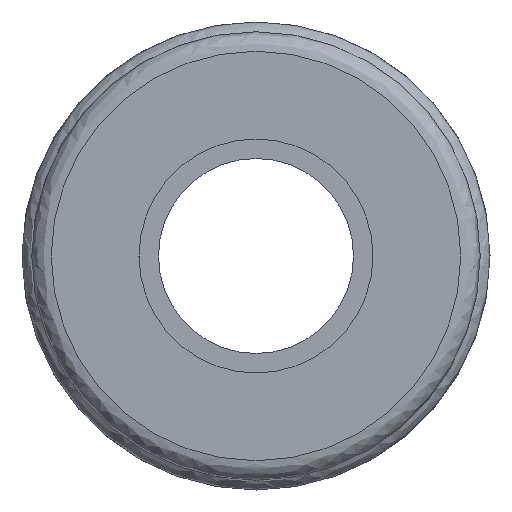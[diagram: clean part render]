
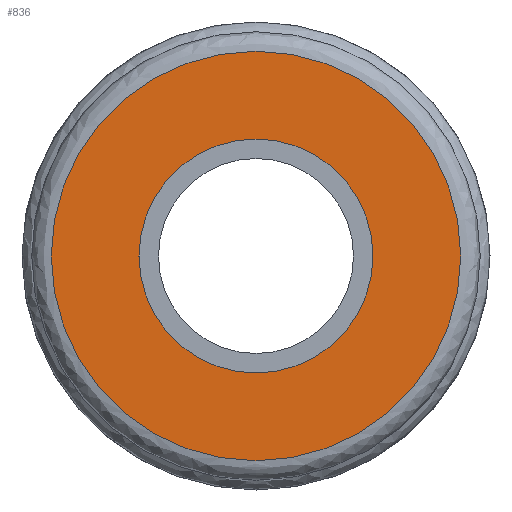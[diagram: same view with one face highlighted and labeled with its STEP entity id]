
A CAD part, left-side view. The second image highlights one B-rep face of the part: STEP entity #836.
In plain terms, the highlighted free-form (B-spline) face has degree [1, 1] with [2, 2] control points.
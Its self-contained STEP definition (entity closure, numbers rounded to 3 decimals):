
#49=CARTESIAN_POINT('',(-25.1,3.,0.0));
#50=VERTEX_POINT('',#49);
#51=CARTESIAN_POINT('',(-25.1,0.0,0.0));
#52=DIRECTION('',(-1.0,0.0,0.0));
#53=DIRECTION('',(0.0,1.0,0.0));
#54=AXIS2_PLACEMENT_3D('',#51,#52,#53);
#55=CIRCLE('',#54,3.);
#56=EDGE_CURVE('',#50,#50,#55,.T.);
#761=CARTESIAN_POINT('',(-25.1,0.,-5.25));
#762=VERTEX_POINT('',#761);
#763=CARTESIAN_POINT('',(-25.1,0.0,0.0));
#764=DIRECTION('',(-1.0,0.0,0.0));
#765=DIRECTION('',(0.0,0.0,1.0));
#766=AXIS2_PLACEMENT_3D('',#763,#764,#765);
#767=CIRCLE('',#766,5.25);
#768=EDGE_CURVE('',#762,#762,#767,.T.);
#825=CARTESIAN_POINT('',(-25.1,5.25,-5.25));
#826=CARTESIAN_POINT('',(-25.1,5.25,5.25));
#827=CARTESIAN_POINT('',(-25.1,-5.25,-5.25));
#828=CARTESIAN_POINT('',(-25.1,-5.25,5.25));
#829=B_SPLINE_SURFACE_WITH_KNOTS('',1,1,((#825,#827),(#826,#828)),.UNSPECIFIED.,.F.,.F.,.U.,(2,2),(2,2),(0.0,10.5),(0.0,10.5),.UNSPECIFIED.);
#830=ORIENTED_EDGE('',*,*,#768,.T.);
#831=EDGE_LOOP('',(#830));
#832=FACE_OUTER_BOUND('',#831,.T.);
#833=ORIENTED_EDGE('',*,*,#56,.F.);
#834=EDGE_LOOP('',(#833));
#835=FACE_BOUND('',#834,.T.);
#836=ADVANCED_FACE('',(#832,#835),#829,.F.);
